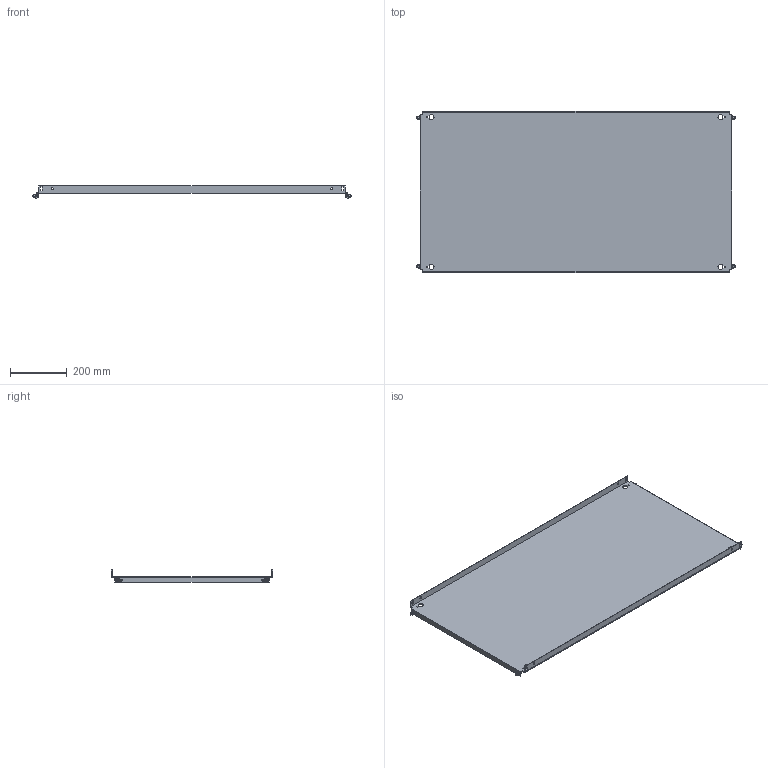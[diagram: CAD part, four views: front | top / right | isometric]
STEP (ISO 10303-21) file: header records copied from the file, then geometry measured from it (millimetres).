
FILE_DESCRIPTION(('Open CASCADE Model'),'2;1');
FILE_NAME('Open CASCADE Shape Model','2025-02-24T17:07:11',('Author'),( 'Open CASCADE'),'Open CASCADE STEP processor 7.8','Open CASCADE 7.8' ,'Unknown');
FILE_SCHEMA(('AUTOMOTIVE_DESIGN { 1 0 10303 214 1 1 1 1 }'));
Length unit declared in the file: millimetre
Products named in the file (4): Compound1; Solid1; Solid2; Solid3
Assembly tree (9 placements, depth 2):
  Compound1
    Solid1
    Solid2  x4
    Solid3  x4
Bounding box: 1127 x 569 x 42.59 mm (x, y, z)
Volume: 1737037.3 mm3; surface area: 1400514 mm2
Topology: 9 solids, 9 shells, 306 faces, 746 edges, 462 vertices
Faces by surface type: plane 150, cone 68, bspline 48, cylinder 28, torus 12
Full cylindrical faces by diameter (mm): 5 x4, 6 x8, 7 x12
Entity records: 4844 total; most frequent: CARTESIAN_POINT 1361, ORIENTED_EDGE 742, DIRECTION 628, EDGE_CURVE 371, VERTEX_POINT 240, LINE 216, VECTOR 216, AXIS2_PLACEMENT_3D 206
